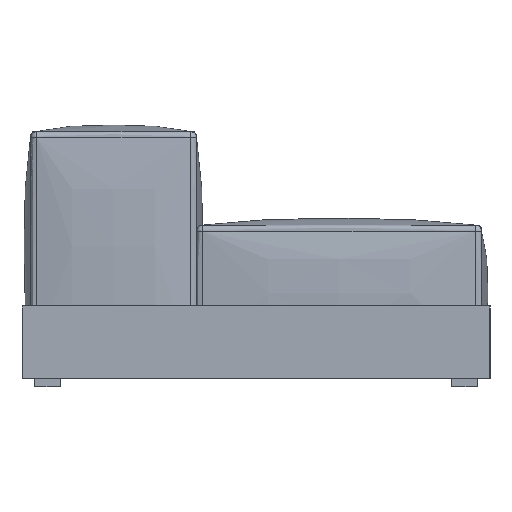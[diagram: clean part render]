
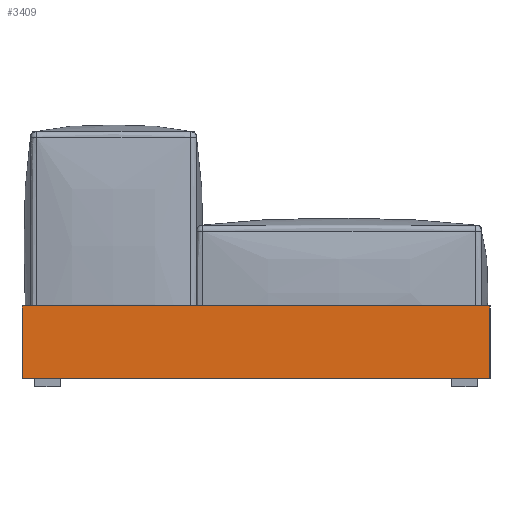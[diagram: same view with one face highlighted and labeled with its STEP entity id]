
A CAD part, left-side view. The second image highlights one B-rep face of the part: STEP entity #3409.
In plain terms, the highlighted planar face has unit normal (-1, 0, 0).
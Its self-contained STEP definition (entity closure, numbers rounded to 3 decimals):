
#67=LINE('',#16957,#267);
#68=LINE('',#16959,#268);
#69=LINE('',#16961,#269);
#70=LINE('',#16962,#270);
#267=VECTOR('',#4381,10.);
#268=VECTOR('',#4382,10.);
#269=VECTOR('',#4383,10.);
#270=VECTOR('',#4384,10.);
#519=PLANE('',#3807);
#1001=FACE_OUTER_BOUND('',#1253,.T.);
#1253=EDGE_LOOP('',(#2857,#2858,#2859,#2860));
#1641=VERTEX_POINT('',#16955);
#1642=VERTEX_POINT('',#16956);
#1643=VERTEX_POINT('',#16958);
#1644=VERTEX_POINT('',#16960);
#2065=EDGE_CURVE('',#1641,#1642,#67,.T.);
#2066=EDGE_CURVE('',#1641,#1643,#68,.T.);
#2067=EDGE_CURVE('',#1644,#1643,#69,.T.);
#2068=EDGE_CURVE('',#1642,#1644,#70,.T.);
#2857=ORIENTED_EDGE('',*,*,#2065,.F.);
#2858=ORIENTED_EDGE('',*,*,#2066,.T.);
#2859=ORIENTED_EDGE('',*,*,#2067,.F.);
#2860=ORIENTED_EDGE('',*,*,#2068,.F.);
#3409=ADVANCED_FACE('',(#1001),#519,.T.);
#3807=AXIS2_PLACEMENT_3D('',#16954,#4379,#4380);
#4379=DIRECTION('center_axis',(-1.,0.,0.));
#4380=DIRECTION('ref_axis',(0.,-1.,0.));
#4381=DIRECTION('',(0.,1.,0.));
#4382=DIRECTION('',(0.,0.,1.));
#4383=DIRECTION('',(0.,-1.,0.));
#4384=DIRECTION('',(0.,0.,1.));
#16954=CARTESIAN_POINT('Origin',(-900.,550.,0.));
#16955=CARTESIAN_POINT('',(-900.,-550.,0.));
#16956=CARTESIAN_POINT('',(-900.,550.,0.));
#16957=CARTESIAN_POINT('',(-900.,-550.,0.));
#16958=CARTESIAN_POINT('',(-900.,-550.,170.));
#16959=CARTESIAN_POINT('',(-900.,-550.,0.));
#16960=CARTESIAN_POINT('',(-900.,550.,170.));
#16961=CARTESIAN_POINT('',(-900.,-550.,170.));
#16962=CARTESIAN_POINT('',(-900.,550.,0.));
